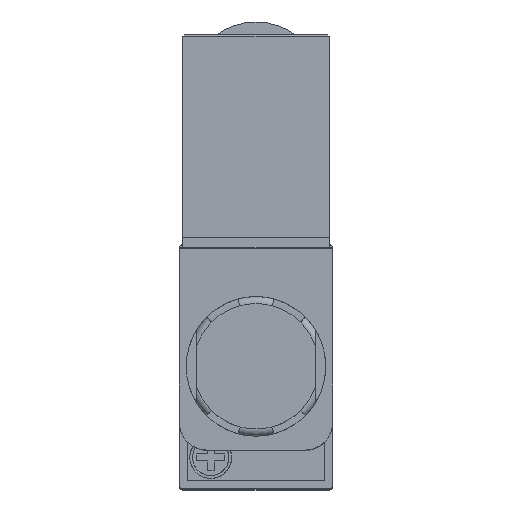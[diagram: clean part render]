
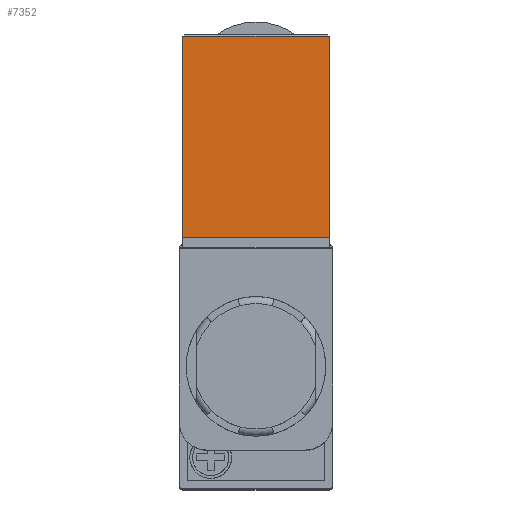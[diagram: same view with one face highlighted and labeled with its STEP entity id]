
A CAD part, top view. The second image highlights one B-rep face of the part: STEP entity #7352.
In plain terms, the highlighted planar face has unit normal (0, 0, 1).
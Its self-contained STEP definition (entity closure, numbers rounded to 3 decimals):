
#276=PLANE('',#8056);
#808=FACE_OUTER_BOUND('',#1309,.T.);
#1309=EDGE_LOOP('',(#6531,#6532,#6533,#6534,#6535,#6536));
#2028=LINE('',#12505,#2724);
#2034=LINE('',#12517,#2730);
#2036=LINE('',#12521,#2732);
#2039=LINE('',#12528,#2735);
#2040=LINE('',#12529,#2736);
#2041=LINE('',#12530,#2737);
#2724=VECTOR('',#9994,20.8);
#2730=VECTOR('',#10006,0.1);
#2732=VECTOR('',#10010,28.8);
#2735=VECTOR('',#10015,28.8);
#2736=VECTOR('',#10016,21.);
#2737=VECTOR('',#10017,0.1);
#3725=VERTEX_POINT('',#12500);
#3726=VERTEX_POINT('',#12504);
#3729=VERTEX_POINT('',#12516);
#3730=VERTEX_POINT('',#12520);
#3732=VERTEX_POINT('',#12526);
#3733=VERTEX_POINT('',#12527);
#4690=EDGE_CURVE('',#3726,#3725,#2028,.T.);
#4696=EDGE_CURVE('',#3726,#3729,#2034,.T.);
#4698=EDGE_CURVE('',#3730,#3729,#2036,.T.);
#4701=EDGE_CURVE('',#3732,#3733,#2039,.T.);
#4702=EDGE_CURVE('',#3732,#3730,#2040,.T.);
#4703=EDGE_CURVE('',#3733,#3725,#2041,.T.);
#6531=ORIENTED_EDGE('',*,*,#4701,.F.);
#6532=ORIENTED_EDGE('',*,*,#4702,.T.);
#6533=ORIENTED_EDGE('',*,*,#4698,.T.);
#6534=ORIENTED_EDGE('',*,*,#4696,.F.);
#6535=ORIENTED_EDGE('',*,*,#4690,.T.);
#6536=ORIENTED_EDGE('',*,*,#4703,.F.);
#7352=ADVANCED_FACE('',(#808),#276,.T.);
#8056=AXIS2_PLACEMENT_3D('',#12525,#10013,#10014);
#9994=DIRECTION('',(1.,0.,0.));
#10006=DIRECTION('',(-1.,0.,0.));
#10010=DIRECTION('',(0.,-1.,0.));
#10013=DIRECTION('center_axis',(0.,0.,1.));
#10014=DIRECTION('ref_axis',(1.,0.,0.));
#10015=DIRECTION('',(0.,-1.,0.));
#10016=DIRECTION('',(-1.,0.,0.));
#10017=DIRECTION('',(-1.,0.,0.));
#12500=CARTESIAN_POINT('',(10.4,18.55,53.95));
#12504=CARTESIAN_POINT('',(-10.4,18.55,53.95));
#12505=CARTESIAN_POINT('',(10.45,18.55,53.95));
#12516=CARTESIAN_POINT('',(-10.5,18.55,53.95));
#12517=CARTESIAN_POINT('',(-10.5,18.55,53.95));
#12520=CARTESIAN_POINT('',(-10.5,47.35,53.95));
#12521=CARTESIAN_POINT('',(-10.5,47.55,53.95));
#12525=CARTESIAN_POINT('Origin',(-10.5,47.55,53.95));
#12526=CARTESIAN_POINT('',(10.5,47.35,53.95));
#12527=CARTESIAN_POINT('',(10.5,18.55,53.95));
#12528=CARTESIAN_POINT('',(10.5,47.55,53.95));
#12529=CARTESIAN_POINT('',(-10.5,47.35,53.95));
#12530=CARTESIAN_POINT('',(-10.5,18.55,53.95));
